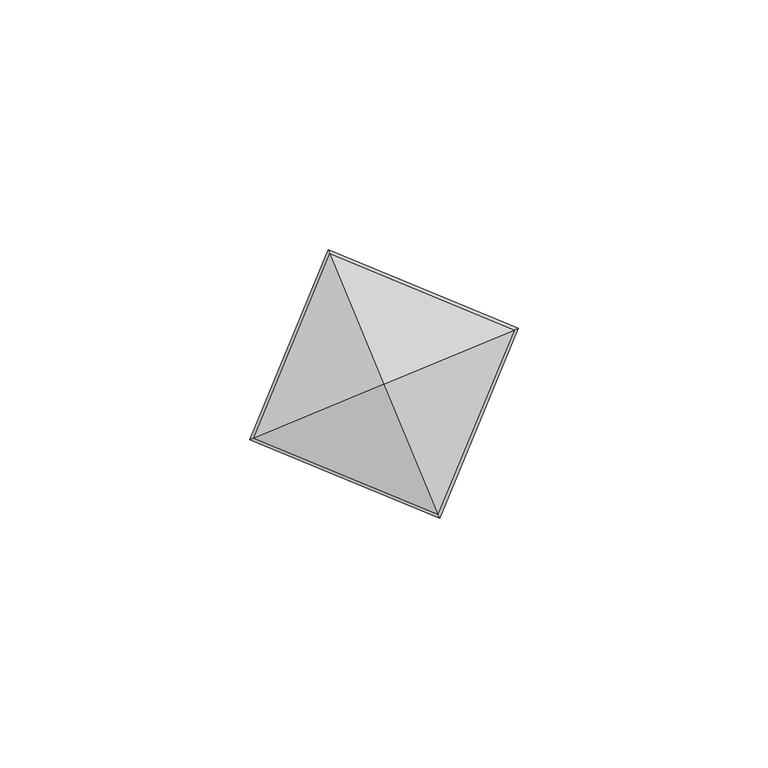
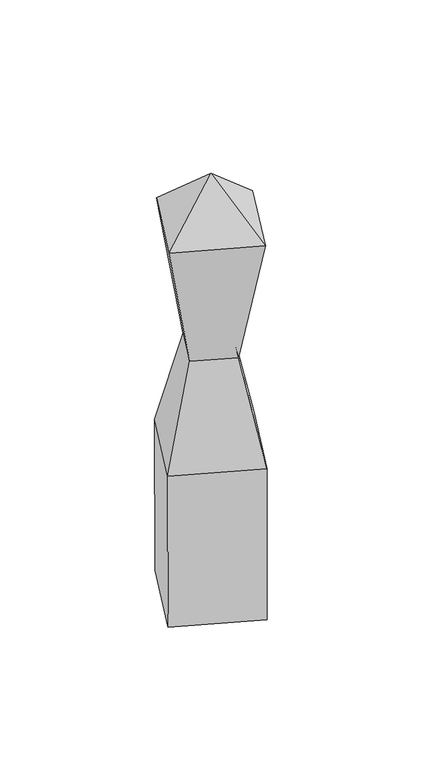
"""IFC4 building model written with IfcOpenShell, lengths in millimetres: geographic element geometry, Enscape AssetDefinition - Grinder 003 Pepper : Enscape AssetDefinition - Grinder 003 Pepper."""

from ifc_helpers import new_model, si_unit, origin, place, context, project, spatial, triangles, source, transform, mapped, element, save


def geographic_element_f51f05aa(model_context):
    return source(origin(), model_context, "Body", "Tessellation", [
        triangles([(26.8076728, 11.1037293, 0.4637631), (-11.136223, 26.8962916, 76.1625023), (-11.1037293, 26.8076728, 0.4637631), (0.0, 0.0, 0.4637631), (5.5041097, -13.2876485, 125.6699455), (-26.8805358, -11.1125916, 76.1625023), (-26.8076728, -11.1037293, 0.4637631), (11.1283451, -26.8559189, 76.1625023), (26.872658, 11.1529609, 76.1625023), (11.1037293, -26.8076728, 0.4637631), (13.2876485, 5.5041097, 125.6699455), (-5.5041097, 13.2876485, 125.6699455), (26.0947962, 10.8083383, 187.5552488), (-10.8083383, 26.0947962, 187.5552488), (-13.2876485, -5.5041097, 125.6699455), (-26.0947962, -10.8083383, 187.5552488), (10.8083383, -26.0947962, 187.5552488), (0.0, 0.0, 212.0844747)], [[16, 17, 18], [14, 16, 18], [13, 14, 18], [17, 13, 18], [11, 13, 17], [5, 17, 16], [17, 5, 11], [16, 15, 5], [15, 16, 14], [14, 12, 15], [13, 11, 12], [12, 14, 13], [12, 11, 9], [8, 9, 11], [11, 5, 8], [9, 8, 10], [10, 7, 4], [7, 10, 8], [5, 15, 6], [6, 8, 5], [8, 6, 7], [15, 12, 2], [2, 6, 15], [9, 2, 12], [7, 3, 4], [6, 2, 3], [3, 7, 6], [3, 1, 4], [10, 4, 1], [10, 1, 9], [2, 9, 1], [1, 3, 2]]),
    ])


if __name__ == "__main__":
    model = new_model("IFC4")
    model_context = context("Model", 3, world=origin())
    ifc_project = project(units=[si_unit("LENGTHUNIT", "METRE", prefix="MILLI")], contexts=[model_context])
    site = spatial("IfcSite", under=ifc_project)
    building = spatial("IfcBuilding", under=site)
    placement = place(None, origin())
    geographic_element_shape = geographic_element_f51f05aa(model_context)
    element("IfcGeographicElement", 1, ObjectType="Enscape AssetDefinition - Grinder 003 Pepper : Enscape AssetDefinition - Grinder 003 Pepper", at=placement, inside=building, context=model_context, shape_type="MappedRepresentation", body=[
        mapped(geographic_element_shape, transform((0.0, 0.0, 0.0), x_axis=(1.0, 0.0, 0.0), y_axis=(0.0, 1.0, 0.0), z_axis=(0.0, 0.0, 1.0))),
    ])
    save(model, "model.ifc")
